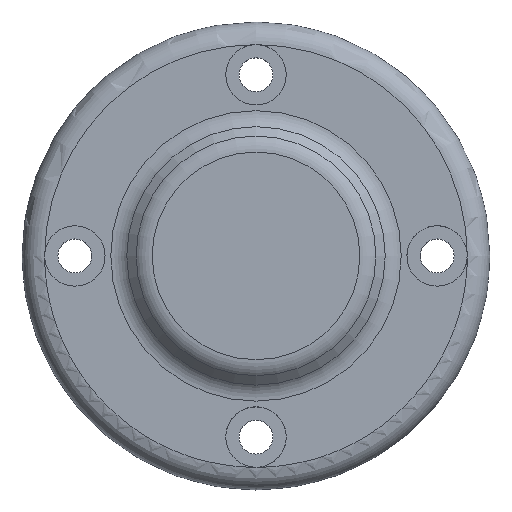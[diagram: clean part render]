
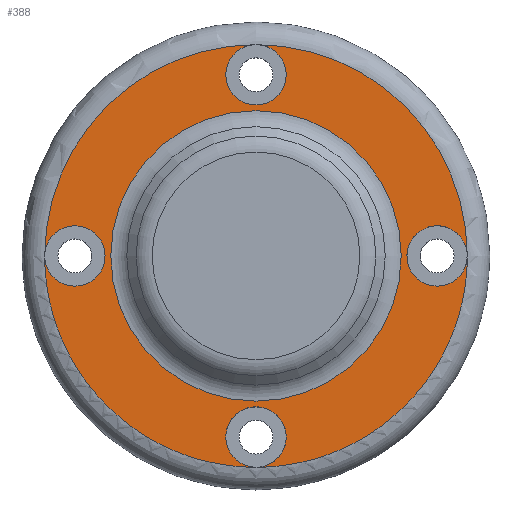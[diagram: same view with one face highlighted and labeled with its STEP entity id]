
A CAD part, top view. The second image highlights one B-rep face of the part: STEP entity #388.
In plain terms, the highlighted planar face has unit normal (0, 0, 1).
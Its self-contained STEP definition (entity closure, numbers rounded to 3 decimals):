
#54=FACE_BOUND('',#102,.T.);
#65=PLANE('',#444);
#75=FACE_OUTER_BOUND('',#101,.T.);
#101=EDGE_LOOP('',(#279,#280,#281,#282,#283,#284,#285,#286,#287,#288,#289));
#102=EDGE_LOOP('',(#290));
#140=CIRCLE('',#440,28.);
#141=CIRCLE('',#441,28.);
#142=CIRCLE('',#442,28.);
#143=CIRCLE('',#443,28.);
#144=CIRCLE('',#445,4.);
#145=CIRCLE('',#446,4.);
#146=CIRCLE('',#447,4.);
#147=CIRCLE('',#448,4.);
#148=CIRCLE('',#449,4.);
#149=CIRCLE('',#450,4.);
#150=CIRCLE('',#451,4.);
#151=CIRCLE('',#452,19.243);
#182=VERTEX_POINT('',#664);
#183=VERTEX_POINT('',#666);
#184=VERTEX_POINT('',#668);
#185=VERTEX_POINT('',#670);
#186=VERTEX_POINT('',#674);
#187=VERTEX_POINT('',#677);
#188=VERTEX_POINT('',#680);
#189=VERTEX_POINT('',#684);
#218=EDGE_CURVE('',#182,#183,#140,.T.);
#219=EDGE_CURVE('',#183,#184,#141,.T.);
#220=EDGE_CURVE('',#184,#185,#142,.T.);
#221=EDGE_CURVE('',#185,#182,#143,.T.);
#222=EDGE_CURVE('',#183,#186,#144,.T.);
#223=EDGE_CURVE('',#186,#183,#145,.T.);
#224=EDGE_CURVE('',#182,#187,#146,.T.);
#225=EDGE_CURVE('',#187,#182,#147,.T.);
#226=EDGE_CURVE('',#185,#188,#148,.T.);
#227=EDGE_CURVE('',#188,#185,#149,.T.);
#228=EDGE_CURVE('',#184,#184,#150,.T.);
#229=EDGE_CURVE('',#189,#189,#151,.T.);
#279=ORIENTED_EDGE('',*,*,#222,.T.);
#280=ORIENTED_EDGE('',*,*,#223,.T.);
#281=ORIENTED_EDGE('',*,*,#218,.F.);
#282=ORIENTED_EDGE('',*,*,#224,.T.);
#283=ORIENTED_EDGE('',*,*,#225,.T.);
#284=ORIENTED_EDGE('',*,*,#221,.F.);
#285=ORIENTED_EDGE('',*,*,#226,.T.);
#286=ORIENTED_EDGE('',*,*,#227,.T.);
#287=ORIENTED_EDGE('',*,*,#220,.F.);
#288=ORIENTED_EDGE('',*,*,#228,.T.);
#289=ORIENTED_EDGE('',*,*,#219,.F.);
#290=ORIENTED_EDGE('',*,*,#229,.F.);
#388=ADVANCED_FACE('',(#75,#54),#65,.T.);
#440=AXIS2_PLACEMENT_3D('',#667,#515,#516);
#441=AXIS2_PLACEMENT_3D('',#669,#517,#518);
#442=AXIS2_PLACEMENT_3D('',#671,#519,#520);
#443=AXIS2_PLACEMENT_3D('',#672,#521,#522);
#444=AXIS2_PLACEMENT_3D('',#673,#523,#524);
#445=AXIS2_PLACEMENT_3D('',#675,#525,#526);
#446=AXIS2_PLACEMENT_3D('',#676,#527,#528);
#447=AXIS2_PLACEMENT_3D('',#678,#529,#530);
#448=AXIS2_PLACEMENT_3D('',#679,#531,#532);
#449=AXIS2_PLACEMENT_3D('',#681,#533,#534);
#450=AXIS2_PLACEMENT_3D('',#682,#535,#536);
#451=AXIS2_PLACEMENT_3D('',#683,#537,#538);
#452=AXIS2_PLACEMENT_3D('',#685,#539,#540);
#515=DIRECTION('center_axis',(0.,0.,-1.));
#516=DIRECTION('ref_axis',(0.,-1.,0.));
#517=DIRECTION('center_axis',(0.,0.,-1.));
#518=DIRECTION('ref_axis',(0.,-1.,0.));
#519=DIRECTION('center_axis',(0.,0.,-1.));
#520=DIRECTION('ref_axis',(0.,-1.,0.));
#521=DIRECTION('center_axis',(0.,0.,-1.));
#522=DIRECTION('ref_axis',(0.,-1.,0.));
#523=DIRECTION('center_axis',(0.,0.,1.));
#524=DIRECTION('ref_axis',(1.,0.,0.));
#525=DIRECTION('center_axis',(0.,0.,-1.));
#526=DIRECTION('ref_axis',(1.,0.,0.));
#527=DIRECTION('center_axis',(0.,0.,-1.));
#528=DIRECTION('ref_axis',(1.,0.,0.));
#529=DIRECTION('center_axis',(0.,0.,-1.));
#530=DIRECTION('ref_axis',(1.,0.,0.));
#531=DIRECTION('center_axis',(0.,0.,-1.));
#532=DIRECTION('ref_axis',(1.,0.,0.));
#533=DIRECTION('center_axis',(0.,0.,-1.));
#534=DIRECTION('ref_axis',(1.,0.,0.));
#535=DIRECTION('center_axis',(0.,0.,-1.));
#536=DIRECTION('ref_axis',(1.,0.,0.));
#537=DIRECTION('center_axis',(0.,0.,-1.));
#538=DIRECTION('ref_axis',(1.,0.,0.));
#539=DIRECTION('center_axis',(0.,0.,1.));
#540=DIRECTION('ref_axis',(0.,-1.,0.));
#664=CARTESIAN_POINT('',(28.,0.,6.));
#666=CARTESIAN_POINT('',(0.,-28.,6.));
#667=CARTESIAN_POINT('Origin',(0.,0.,6.));
#668=CARTESIAN_POINT('',(-28.,0.,6.));
#669=CARTESIAN_POINT('Origin',(0.,0.,6.));
#670=CARTESIAN_POINT('',(0.,28.,6.));
#671=CARTESIAN_POINT('Origin',(0.,0.,6.));
#672=CARTESIAN_POINT('Origin',(0.,0.,6.));
#673=CARTESIAN_POINT('Origin',(0.,24.5,6.));
#674=CARTESIAN_POINT('',(-4.,-24.,6.));
#675=CARTESIAN_POINT('Origin',(0.,-24.,6.));
#676=CARTESIAN_POINT('Origin',(0.,-24.,6.));
#677=CARTESIAN_POINT('',(20.,0.,6.));
#678=CARTESIAN_POINT('Origin',(24.,0.,6.));
#679=CARTESIAN_POINT('Origin',(24.,0.,6.));
#680=CARTESIAN_POINT('',(-4.,24.,6.));
#681=CARTESIAN_POINT('Origin',(0.,24.,6.));
#682=CARTESIAN_POINT('Origin',(0.,24.,6.));
#683=CARTESIAN_POINT('Origin',(-24.,0.,6.));
#684=CARTESIAN_POINT('',(19.243,0.,6.));
#685=CARTESIAN_POINT('Origin',(0.,0.,6.));
